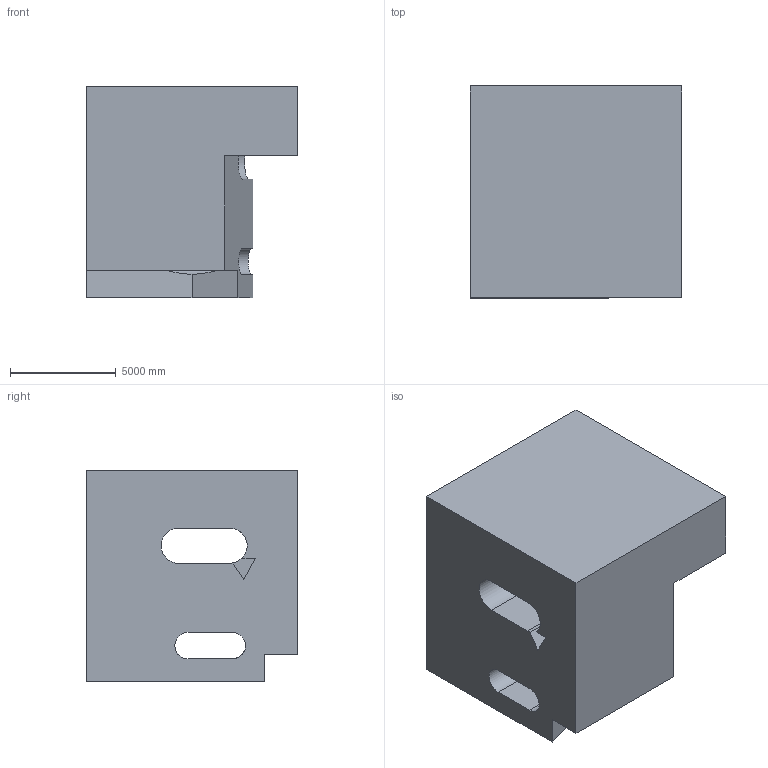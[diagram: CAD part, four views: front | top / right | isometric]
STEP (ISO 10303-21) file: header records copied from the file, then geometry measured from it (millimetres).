
FILE_DESCRIPTION (( 'STEP AP203' ), '1' );
FILE_NAME ('485.STEP', '2022-07-29T11:28:23', ( 'user' ), ( '' ), 'SwSTEP 2.0', 'SolidWorks 2021', '' );
FILE_SCHEMA (( 'CONFIG_CONTROL_DESIGN' ));
Length unit declared in the file: centimetre
Products named in the file (1): 485
Bounding box: 10000 x 10000 x 10000 mm (x, y, z)
Volume: 709671212177.2 mm3; surface area: 672659225.6 mm2
Topology: 1 solids, 1 shells, 25 faces, 78 edges, 52 vertices
Faces by surface type: plane 21, cylinder 4
Entity records: 949 total; most frequent: CARTESIAN_POINT 174, ORIENTED_EDGE 156, DIRECTION 132, EDGE_CURVE 78, LINE 64, VECTOR 64, VERTEX_POINT 52, AXIS2_PLACEMENT_3D 34
